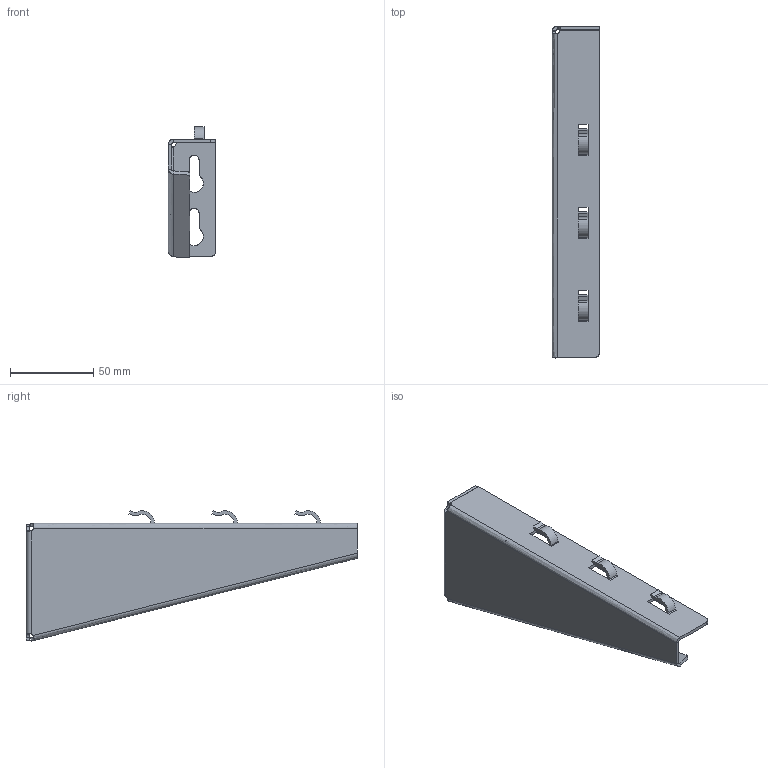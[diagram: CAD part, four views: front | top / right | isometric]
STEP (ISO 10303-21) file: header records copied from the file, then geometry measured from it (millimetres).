
FILE_DESCRIPTION(/* description */ (''),/* implementation_level */ '2;1');
FILE_NAME(/* name */ 'NZM200',/* time_stamp */ '2025-03-13T20:47:33+01:00',/* author */ (''),/* organization */ (''),/* preprocessor_version */ 'ST-DEVELOPER v16.5',/* originating_system */ '',/* authorisation */ '');
FILE_SCHEMA (('CONFIG_CONTROL_DESIGN'));
Length unit declared in the file: millimetre
Products named in the file (1): Document
Bounding box: 28.52 x 199.91 x 78.44 mm (x, y, z)
Volume: 31886.4 mm3; surface area: 37363 mm2
Topology: 1 solids, 4 shells, 111 faces, 294 edges, 188 vertices
Faces by surface type: bspline 56, plane 35, cylinder 20
Entity records: 3630 total; most frequent: CARTESIAN_POINT 1833, ORIENTED_EDGE 576, EDGE_CURVE 294, VERTEX_POINT 188, EDGE_LOOP 121, ADVANCED_FACE 111, FACE_OUTER_BOUND 111, B_SPLINE_CURVE_WITH_KNOTS 109
